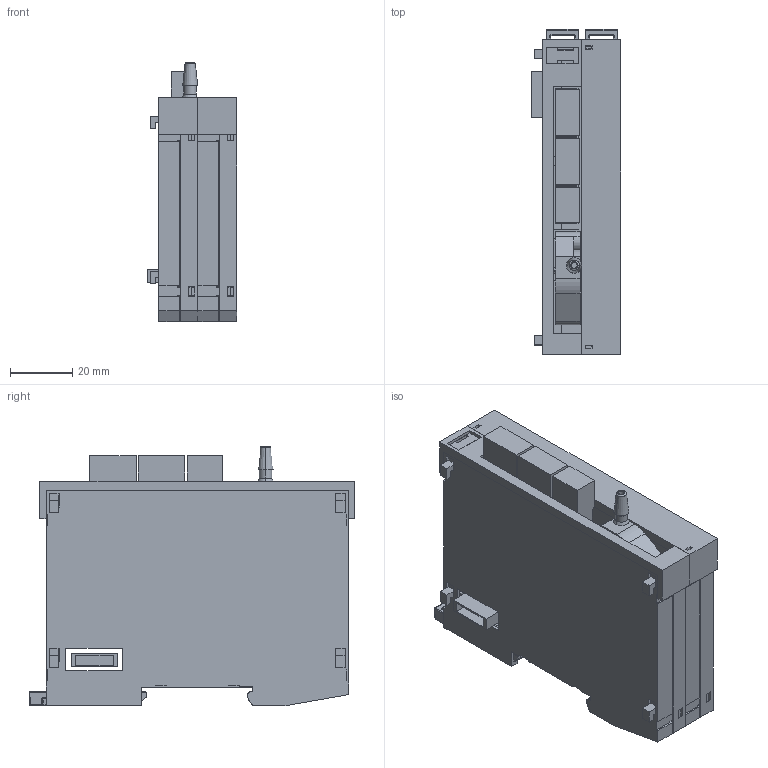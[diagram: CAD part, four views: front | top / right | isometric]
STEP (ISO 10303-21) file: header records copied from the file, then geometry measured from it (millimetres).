
FILE_DESCRIPTION (( 'STEP AP214' ), '1' );
FILE_NAME ('DM811.STEP', '2016-01-25T06:50:32', ( 'SIGMATEK GmbH & Co KG' ), ( 'SIGMATEK GmbH & Co KG' ), 'SwSTEP 2.0', 'SolidWorks 2015', '' );
FILE_SCHEMA (( 'AUTOMOTIVE_DESIGN' ));
Length unit declared in the file: millimetre
Products named in the file (15): 0010800012 - Absolutdrucksensor HSCSHNV1.6BA2A3  - Case SIP HN (Honeywell); Dummy_4110262171 3pol Stecker 1.5-6-st-3.5_1705386; Dummy_4110251244 3pol.Mini-Combic.Steckergrundg. RM 3,5 1844223; Dummy_4110262104 4pol.Federkraftstecker f.2reih 1952283; Dummy_4110251205 4pol.Minicombicon-Grundgehäuse RM3,5 1937512; Dummy_4080225346 Erni Stift; Dummy_4080225345 Erni Buchse; S-Dias Rasthaken 20130313; S-Dias Zwischenstück Doppelmodul; S-Dias Doppelmodul Abdeckung Relais Support_DM811; Schieber_f Suport; S-Dias Schale rechts_f Suport; S-Dias Schale links_f Suport; DM811; LP_DM811
Assembly tree (17 placements, depth 3):
  DM811
    S-Dias Schale links_f Suport
    S-Dias Schale rechts_f Suport
    Schieber_f Suport
    S-Dias Doppelmodul Abdeckung Relais Support_DM811
    S-Dias Zwischenstück Doppelmodul
    S-Dias Rasthaken 20130313  x2
    LP_DM811
      Dummy_4080225345 Erni Buchse
      Dummy_4080225346 Erni Stift
      Dummy_4110251205 4pol.Minicombicon-Grundgehäuse RM3,5 1937512  x2
      Dummy_4110262104 4pol.Federkraftstecker f.2reih 1952283  x2
      Dummy_4110251244 3pol.Mini-Combic.Steckergrundg. RM 3,5 1844223
      Dummy_4110262171 3pol Stecker 1.5-6-st-3.5_1705386
      0010800012 - Absolutdrucksensor HSCSHNV1.6BA2A3  - Case SIP HN (Honeywell)
Bounding box: 28.8 x 104.19 x 82.93 mm (x, y, z)
Volume: 41373.8 mm3; surface area: 59045.8 mm2
Topology: 17 solids, 17 shells, 1447 faces, 4232 edges, 2803 vertices
Faces by surface type: plane 962, cylinder 259, bspline 110, cone 58, torus 32, sphere 26
Entity records: 47094 total; most frequent: CARTESIAN_POINT 9597, ORIENTED_EDGE 6774, DIRECTION 5585, EDGE_CURVE 3387, LINE 2591, VECTOR 2591, VERTEX_POINT 2238, AXIS2_PLACEMENT_3D 1497
